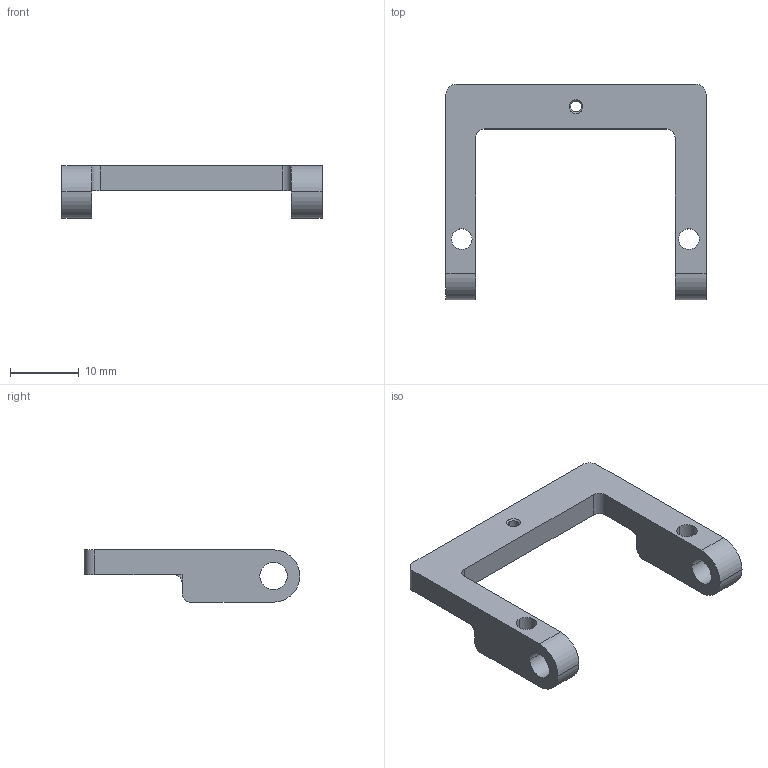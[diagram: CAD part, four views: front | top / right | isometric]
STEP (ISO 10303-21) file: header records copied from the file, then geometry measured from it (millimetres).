
FILE_DESCRIPTION(/* description */ ('VariCAD 2010-3.03 AP-214'),/* implementation_level */ '2;1');
FILE_NAME(/* name */ '0353-19-46',/* time_stamp */ '2011-01-17T14:58:02-07:00',/* author */ (''),/* organization */ (''),/* preprocessor_version */ 'ST-DEVELOPER v12',/* originating_system */ 'VariCAD 2010-3.03; kernel version (20100102)',/* authorisation */ '');
FILE_SCHEMA (('AUTOMOTIVE_DESIGN'));
Length unit declared in the file: millimetre
Products named in the file (1): Part
Bounding box: 37.8 x 31.3 x 7.6 mm (x, y, z)
Volume: 1991.4 mm3; surface area: 2109.8 mm2
Topology: 2 solids, 2 shells, 45 faces, 118 edges, 76 vertices
Faces by surface type: cylinder 26, plane 17, cone 2
Entity records: 1778 total; most frequent: DIRECTION 266, CARTESIAN_POINT 242, ORIENTED_EDGE 236, EDGE_CURVE 118, AXIS2_PLACEMENT_3D 100, VERTEX_POINT 76, LINE 66, VECTOR 66
